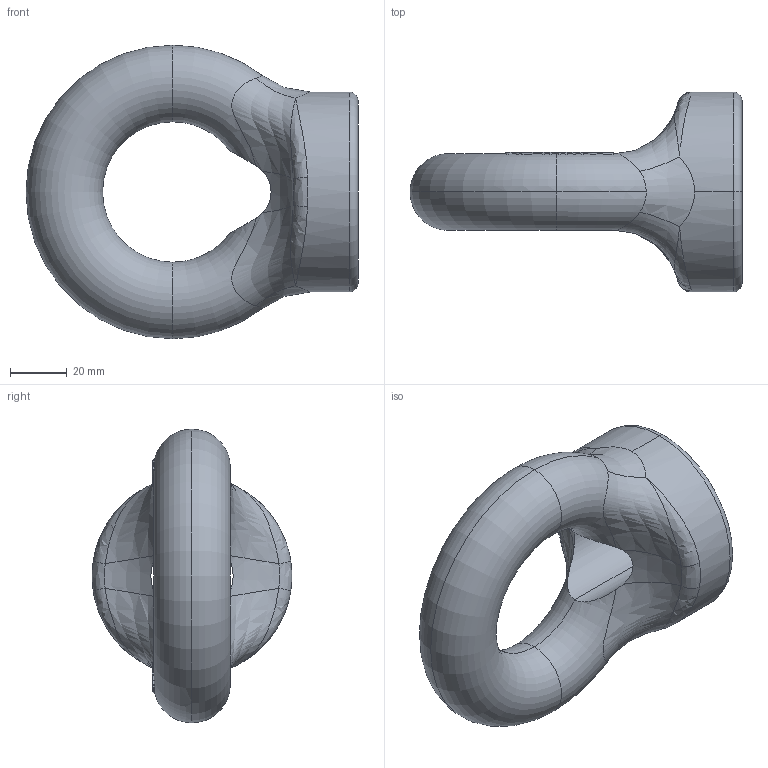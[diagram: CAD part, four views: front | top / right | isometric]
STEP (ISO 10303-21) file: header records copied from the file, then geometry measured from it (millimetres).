
FILE_DESCRIPTION (( 'STEP AP203' ), '1' );
FILE_NAME ('ENMC30.STEP', '2010-02-11T22:40:41', ( ' ' ), ( ' ' ), 'SwSTEP 2.0', 'SolidWorks 2003240', '' );
FILE_SCHEMA (( 'CONFIG_CONTROL_DESIGN' ));
Length unit declared in the file: millimetre
Products named in the file (1): ENMC30
Bounding box: 117.05 x 70.5 x 103.5 mm (x, y, z)
Volume: 205068.7 mm3; surface area: 30649 mm2
Topology: 1 solids, 1 shells, 229 faces, 616 edges, 402 vertices
Faces by surface type: plane 131, bspline 62, torus 30, cylinder 4, cone 2
Entity records: 34121 total; most frequent: CARTESIAN_POINT 29258, ORIENTED_EDGE 1224, EDGE_CURVE 612, DIRECTION 588, VERTEX_POINT 402, B_SPLINE_CURVE_WITH_KNOTS 394, EDGE_LOOP 250, ADVANCED_FACE 229
